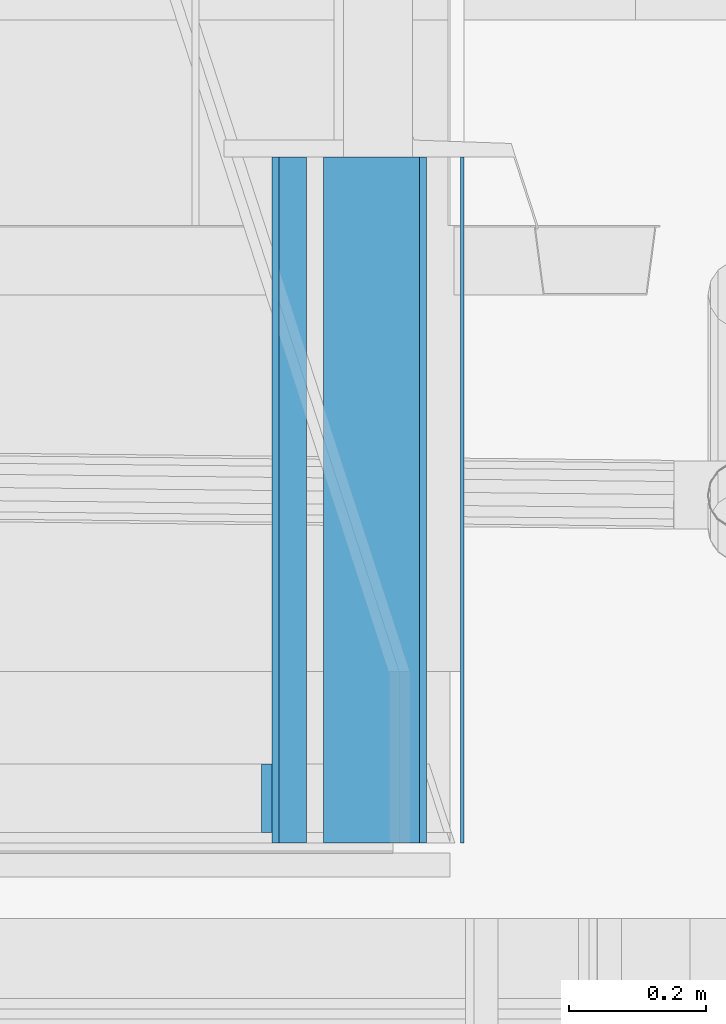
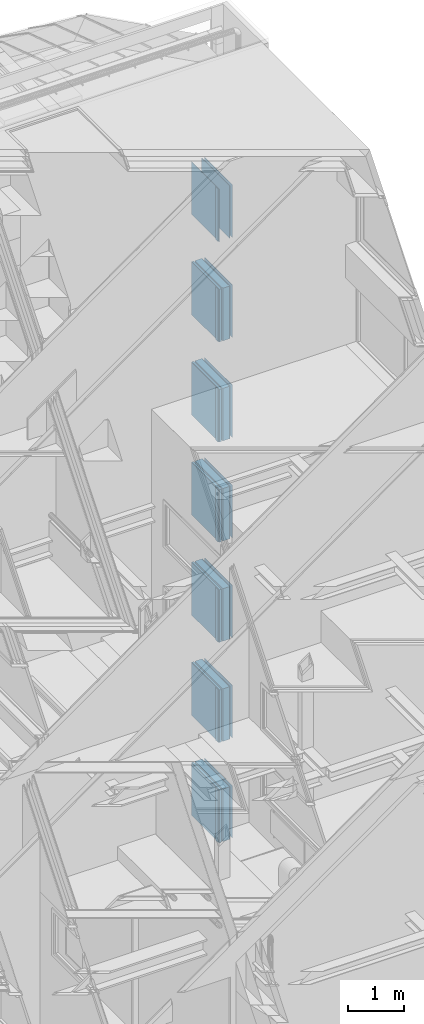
# One storey, part 165 of 583: 40 building element parts, 7 elements without a shape of their own.
"""IFC2X3 building model written with IfcOpenShell, lengths in metres."""

from ifc_helpers import new_model, entity, si_unit, converted_unit, derived_unit, money_unit, direction, frame, frame_2d, origin_with_axes, place, context, subcontext, project, spatial, rectangle, extrude, material, type_object, element, aggregate, save


model = new_model("IFC2X3")

# Units and contexts
model_context = context("Model", 3, precision=1e-05, world=origin_with_axes(), true_north=direction((0.0, 1.0)))
body_context = subcontext(model_context, "Body", "Model", "MODEL_VIEW", scale=1.0)
ifc_project = project(units=[si_unit("LENGTHUNIT", "METRE"), si_unit("AREAUNIT", "SQUARE_METRE"), si_unit("VOLUMEUNIT", "CUBIC_METRE"), si_unit("ABSORBEDDOSEUNIT", "GRAY"), si_unit("AMOUNTOFSUBSTANCEUNIT", "MOLE"), si_unit("DOSEEQUIVALENTUNIT", "SIEVERT"), si_unit("ELECTRICCAPACITANCEUNIT", "FARAD"), si_unit("ELECTRICCHARGEUNIT", "COULOMB"), si_unit("ELECTRICCONDUCTANCEUNIT", "SIEMENS"), si_unit("ELECTRICCURRENTUNIT", "AMPERE"), si_unit("ELECTRICRESISTANCEUNIT", "OHM"), si_unit("ELECTRICVOLTAGEUNIT", "VOLT"), si_unit("ENERGYUNIT", "JOULE"), si_unit("FORCEUNIT", "NEWTON"), si_unit("FREQUENCYUNIT", "HERTZ"), si_unit("ILLUMINANCEUNIT", "LUX"), si_unit("INDUCTANCEUNIT", "HENRY"), si_unit("LUMINOUSFLUXUNIT", "LUMEN"), si_unit("LUMINOUSINTENSITYUNIT", "CANDELA"), si_unit("MAGNETICFLUXDENSITYUNIT", "TESLA"), si_unit("MAGNETICFLUXUNIT", "WEBER"), si_unit("MASSUNIT", "GRAM"), converted_unit("PLANEANGLEUNIT", "degree", entity("IfcReal", 0.0174532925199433), si_unit("PLANEANGLEUNIT", "RADIAN"), dimensions=[0, 0, 0, 0, 0, 0, 0]), si_unit("POWERUNIT", "WATT"), si_unit("PRESSUREUNIT", "PASCAL"), si_unit("RADIOACTIVITYUNIT", "BECQUEREL"), si_unit("SOLIDANGLEUNIT", "STERADIAN"), si_unit("THERMODYNAMICTEMPERATUREUNIT", "KELVIN"), si_unit("TIMEUNIT", "SECOND"), derived_unit("ACCELERATIONUNIT", [(si_unit("LENGTHUNIT", "METRE"), 1), (si_unit("TIMEUNIT", "SECOND"), -2)]), derived_unit("ANGULARVELOCITYUNIT", [(converted_unit("PLANEANGLEUNIT", "degree", entity("IfcReal", 0.0174532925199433), si_unit("PLANEANGLEUNIT", "RADIAN"), dimensions=[0, 0, 0, 0, 0, 0, 0]), 1), (si_unit("TIMEUNIT", "SECOND"), -1)]), derived_unit("CURVATUREUNIT", [(converted_unit("PLANEANGLEUNIT", "degree", entity("IfcReal", 0.0174532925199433), si_unit("PLANEANGLEUNIT", "RADIAN"), dimensions=[0, 0, 0, 0, 0, 0, 0]), 1), (si_unit("LENGTHUNIT", "METRE"), -1)]), derived_unit("DYNAMICVISCOSITYUNIT", [(si_unit("PRESSUREUNIT", "PASCAL"), 1), (si_unit("TIMEUNIT", "SECOND"), 1)]), derived_unit("HEATFLUXDENSITYUNIT", [(si_unit("POWERUNIT", "WATT"), 1), (si_unit("LENGTHUNIT", "METRE"), -2)]), derived_unit("HEATINGVALUEUNIT", [(si_unit("ENERGYUNIT", "JOULE"), 1), (si_unit("MASSUNIT", "GRAM"), -1)]), derived_unit("INTEGERCOUNTRATEUNIT", [(si_unit("TIMEUNIT", "SECOND"), -1)]), derived_unit("IONCONCENTRATIONUNIT", [(si_unit("MASSUNIT", "GRAM"), 1), (si_unit("VOLUMEUNIT", "CUBIC_METRE"), -1)]), derived_unit("ISOTHERMALMOISTURECAPACITYUNIT", [(si_unit("VOLUMEUNIT", "CUBIC_METRE"), 1), (si_unit("MASSUNIT", "GRAM"), -1)]), derived_unit("KINEMATICVISCOSITYUNIT", [(si_unit("AREAUNIT", "SQUARE_METRE"), 1), (si_unit("TIMEUNIT", "SECOND"), -1)]), derived_unit("LINEARFORCEUNIT", [(si_unit("FORCEUNIT", "NEWTON"), 1), (si_unit("LENGTHUNIT", "METRE"), -1)]), derived_unit("LINEARMOMENTUNIT", [(si_unit("FORCEUNIT", "NEWTON"), 1), (si_unit("LENGTHUNIT", "METRE"), -1)]), derived_unit("LINEARSTIFFNESSUNIT", [(si_unit("FORCEUNIT", "NEWTON"), 1), (si_unit("LENGTHUNIT", "METRE"), -1)]), derived_unit("LINEARVELOCITYUNIT", [(si_unit("LENGTHUNIT", "METRE"), 1), (si_unit("TIMEUNIT", "SECOND"), -1)]), derived_unit("LUMINOUSINTENSITYDISTRIBUTIONUNIT", [(si_unit("LUMINOUSINTENSITYUNIT", "CANDELA"), 1), (si_unit("LUMINOUSFLUXUNIT", "LUMEN"), -1)]), derived_unit("MASSDENSITYUNIT", [(si_unit("MASSUNIT", "GRAM"), 1), (si_unit("VOLUMEUNIT", "CUBIC_METRE"), -1)]), derived_unit("MASSFLOWRATEUNIT", [(si_unit("MASSUNIT", "GRAM"), 1), (si_unit("TIMEUNIT", "SECOND"), -1)]), derived_unit("MASSPERLENGTHUNIT", [(si_unit("MASSUNIT", "GRAM"), 1), (si_unit("LENGTHUNIT", "METRE"), -1)]), derived_unit("MODULUSOFELASTICITYUNIT", [(si_unit("FORCEUNIT", "NEWTON"), 1), (si_unit("AREAUNIT", "SQUARE_METRE"), -1)]), derived_unit("MODULUSOFLINEARSUBGRADEREACTIONUNIT", [(si_unit("FORCEUNIT", "NEWTON"), 1), (si_unit("LENGTHUNIT", "METRE"), -2)]), derived_unit("MODULUSOFROTATIONALSUBGRADEREACTIONUNIT", [(si_unit("FORCEUNIT", "NEWTON"), 1), (si_unit("LENGTHUNIT", "METRE"), 1)]), derived_unit("MODULUSOFSUBGRADEREACTIONUNIT", [(si_unit("FORCEUNIT", "NEWTON"), 1), (si_unit("VOLUMEUNIT", "CUBIC_METRE"), -1)]), derived_unit("MOISTUREDIFFUSIVITYUNIT", [(si_unit("VOLUMEUNIT", "CUBIC_METRE"), 1), (si_unit("TIMEUNIT", "SECOND"), -1)]), derived_unit("MOLECULARWEIGHTUNIT", [(si_unit("MASSUNIT", "GRAM"), 1), (si_unit("AMOUNTOFSUBSTANCEUNIT", "MOLE"), -1)]), derived_unit("PLANARFORCEUNIT", [(si_unit("FORCEUNIT", "NEWTON"), 1), (si_unit("LENGTHUNIT", "METRE"), -2)]), derived_unit("ROTATIONALFREQUENCYUNIT", [(si_unit("TIMEUNIT", "SECOND"), -1)]), derived_unit("ROTATIONALMASSUNIT", [(si_unit("MASSUNIT", "GRAM"), 1), (si_unit("LENGTHUNIT", "METRE"), 2)]), derived_unit("ROTATIONALSTIFFNESSUNIT", [(si_unit("FORCEUNIT", "NEWTON"), 1), (si_unit("LENGTHUNIT", "METRE"), 1), (converted_unit("PLANEANGLEUNIT", "degree", entity("IfcReal", 0.0174532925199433), si_unit("PLANEANGLEUNIT", "RADIAN"), dimensions=[0, 0, 0, 0, 0, 0, 0]), -1)]), derived_unit("SECTIONAREAINTEGRALUNIT", [(si_unit("LENGTHUNIT", "METRE"), 5)]), derived_unit("SECTIONMODULUSUNIT", [(si_unit("LENGTHUNIT", "METRE"), 3)]), derived_unit("SHEARMODULUSUNIT", [(si_unit("FORCEUNIT", "NEWTON"), 1), (si_unit("AREAUNIT", "SQUARE_METRE"), -1)]), derived_unit("SOUNDPOWERUNIT", [(si_unit("ENERGYUNIT", "JOULE"), 1), (si_unit("TIMEUNIT", "SECOND"), -1)]), derived_unit("SPECIFICHEATCAPACITYUNIT", [(si_unit("FORCEUNIT", "NEWTON"), 1), (si_unit("MASSUNIT", "GRAM"), -1), (si_unit("THERMODYNAMICTEMPERATUREUNIT", "KELVIN"), -1)]), derived_unit("TEMPERATUREGRADIENTUNIT", [(si_unit("THERMODYNAMICTEMPERATUREUNIT", "KELVIN"), 1), (si_unit("LENGTHUNIT", "METRE"), -1)]), derived_unit("THERMALADMITTANCEUNIT", [(si_unit("POWERUNIT", "WATT"), 1), (si_unit("AREAUNIT", "SQUARE_METRE"), -1), (si_unit("THERMODYNAMICTEMPERATUREUNIT", "KELVIN"), -1)]), derived_unit("THERMALCONDUCTANCEUNIT", [(si_unit("POWERUNIT", "WATT"), 1), (si_unit("LENGTHUNIT", "METRE"), -1), (si_unit("THERMODYNAMICTEMPERATUREUNIT", "KELVIN"), -1)]), derived_unit("THERMALEXPANSIONCOEFFICIENTUNIT", [(si_unit("THERMODYNAMICTEMPERATUREUNIT", "KELVIN"), -1)]), derived_unit("THERMALRESISTANCEUNIT", [(si_unit("AREAUNIT", "SQUARE_METRE"), 1), (si_unit("POWERUNIT", "WATT"), -1)]), derived_unit("THERMALTRANSMITTANCEUNIT", [(si_unit("POWERUNIT", "WATT"), 1), (si_unit("AREAUNIT", "SQUARE_METRE"), -1), (si_unit("THERMODYNAMICTEMPERATUREUNIT", "KELVIN"), -1)]), derived_unit("TORQUEUNIT", [(si_unit("FORCEUNIT", "NEWTON"), 1), (si_unit("LENGTHUNIT", "METRE"), 1)]), derived_unit("VAPORPERMEABILITYUNIT", [(si_unit("MASSUNIT", "GRAM"), 1), (si_unit("TIMEUNIT", "SECOND"), -1)]), derived_unit("VOLUMETRICFLOWRATEUNIT", [(si_unit("VOLUMEUNIT", "CUBIC_METRE"), 1), (si_unit("TIMEUNIT", "SECOND"), -1)]), derived_unit("WARPINGCONSTANTUNIT", [(si_unit("LENGTHUNIT", "METRE"), 6)]), derived_unit("WARPINGMOMENTUNIT", [(si_unit("FORCEUNIT", "NEWTON"), 1), (si_unit("LENGTHUNIT", "METRE"), 2)]), money_unit("GBP")], contexts=[model_context])

# Site, building, storey
site_placement = place(None, origin_with_axes())
site = spatial("IfcSite", under=ifc_project, at=site_placement, Name="Site", CompositionType="ELEMENT")
building_placement = place(site_placement, origin_with_axes())
building = spatial("IfcBuilding", under=site, at=building_placement, Name="Building01", CompositionType="ELEMENT")
storey_placement = place(building_placement, frame((0.0, 0.0, 20.78), z_axis=(0.0, 0.0, 1.0), x_axis=(1.0, 0.0, 0.0)))
storey = spatial("IfcBuildingStorey", under=building, at=storey_placement, Name="RL", CompositionType="ELEMENT", Elevation=20.78)

# Wall, building element parts
wall_type = type_object("IfcWallType", Name="SHE_A-Walls_Type06e_ExternalWallPenthouse_280mm", PredefinedType="NOTDEFINED")
wall_1_placement = place(storey_placement, frame((14.335061, 14.98, 2.000024), z_axis=(0.0, 1.0, 0.0), x_axis=(0.0, 0.0, 1.0)))
wall_1 = element("IfcWall", 1, at=wall_1_placement, inside=storey, type_object=wall_type, Name="6E", ObjectType="SHE_A-Walls_Type06e_ExternalWallPenthouse_280mm")
ifc_material_1 = material(Name="A_BSUK_Walls_Timber")
placement_1 = place(wall_1_placement, origin_with_axes())
building_element_part_1 = element("IfcBuildingElementPart", 2, at=placement_1, material=ifc_material_1, Name="3", context=body_context, shape_type="SweptSolid", body=[
    extrude(rectangle(XDim=1.149951, YDim=0.015, at=frame_2d((0.574976, -0.2225), x_axis=(-1.0, 0.0))), frame((0.0, 0.0, 0.015), z_axis=(0.0, 0.0, 1.0), x_axis=(1.0, 0.0, 0.0)), (0.0, 0.0, 1.0), 0.1),
])
ifc_material_2 = material(Name="A_BSUK_WallInternal_Finishes_Plasterboard")
building_element_part_2 = element("IfcBuildingElementPart", 3, at=placement_1, material=ifc_material_2, Name="4", context=body_context, shape_type="SweptSolid", body=[
    extrude(rectangle(XDim=1.149951, YDim=0.01, at=frame_2d((0.574976, -0.21), x_axis=(-1.0, 0.0))), origin_with_axes(), (0.0, 0.0, 1.0), 1.0),
])
building_element_part_3 = element("IfcBuildingElementPart", 4, at=placement_1, material=ifc_material_1, Name="5", context=body_context, shape_type="SweptSolid", body=[
    extrude(rectangle(XDim=1.149951, YDim=0.01, at=frame_2d((0.574976, 0.005), x_axis=(-1.0, 0.0))), origin_with_axes(), (0.0, 0.0, 1.0), 1.0),
])
ifc_material_3 = material(Name="A_BSUK_WallInternal_Finishes_Metal")
building_element_part_4 = element("IfcBuildingElementPart", 5, at=placement_1, material=ifc_material_3, Name="6", context=body_context, shape_type="SweptSolid", body=[
    extrude(rectangle(XDim=1.149951, YDim=0.005, at=frame_2d((0.574976, 0.0625), x_axis=(-1.0, 0.0))), origin_with_axes(), (0.0, 0.0, 1.0), 1.0),
])
aggregate(wall_1, [building_element_part_1, building_element_part_2, building_element_part_3, building_element_part_4])

wall_2_placement = place(storey_placement, frame((14.335061, 14.98, -0.189976), z_axis=(0.0, 1.0, 0.0), x_axis=(0.0, 0.0, 1.0)))
wall_2 = element("IfcWall", 6, at=wall_2_placement, inside=storey, type_object=wall_type, Name="6E", ObjectType="SHE_A-Walls_Type06e_ExternalWallPenthouse_280mm")
ifc_material_4 = material(Name="A_BSUK_Insulation")
placement_2 = place(wall_2_placement, origin_with_axes())
building_element_part_5 = element("IfcBuildingElementPart", 7, at=placement_2, material=ifc_material_4, Name="1", context=body_context, shape_type="SweptSolid", body=[
    extrude(rectangle(XDim=1.149951, YDim=0.14, at=frame_2d((0.574976, -0.07), x_axis=(-1.0, 0.0))), origin_with_axes(), (0.0, 0.0, 1.0), 1.0),
])
building_element_part_6 = element("IfcBuildingElementPart", 8, at=placement_2, material=ifc_material_4, Name="2", context=body_context, shape_type="SweptSolid", body=[
    extrude(rectangle(XDim=1.149951, YDim=0.04, at=frame_2d((0.574976, -0.185), x_axis=(-1.0, 0.0))), origin_with_axes(), (0.0, 0.0, 1.0), 1.0),
])
building_element_part_7 = element("IfcBuildingElementPart", 9, at=placement_2, material=ifc_material_1, Name="3", context=body_context, shape_type="SweptSolid", body=[
    extrude(rectangle(XDim=1.149951, YDim=0.015, at=frame_2d((0.574976, -0.2225), x_axis=(-1.0, 0.0))), frame((0.0, 0.0, 0.015), z_axis=(0.0, 0.0, 1.0), x_axis=(1.0, 0.0, 0.0)), (0.0, 0.0, 1.0), 0.1),
])
building_element_part_8 = element("IfcBuildingElementPart", 10, at=placement_2, material=ifc_material_2, Name="4", context=body_context, shape_type="SweptSolid", body=[
    extrude(rectangle(XDim=1.149951, YDim=0.01, at=frame_2d((0.574976, -0.21), x_axis=(-1.0, 0.0))), origin_with_axes(), (0.0, 0.0, 1.0), 1.0),
])
building_element_part_9 = element("IfcBuildingElementPart", 11, at=placement_2, material=ifc_material_1, Name="5", context=body_context, shape_type="SweptSolid", body=[
    extrude(rectangle(XDim=1.149951, YDim=0.01, at=frame_2d((0.574976, 0.005), x_axis=(-1.0, 0.0))), origin_with_axes(), (0.0, 0.0, 1.0), 1.0),
])
building_element_part_10 = element("IfcBuildingElementPart", 12, at=placement_2, material=ifc_material_3, Name="6", context=body_context, shape_type="SweptSolid", body=[
    extrude(rectangle(XDim=1.149951, YDim=0.005, at=frame_2d((0.574976, 0.0625), x_axis=(-1.0, 0.0))), origin_with_axes(), (0.0, 0.0, 1.0), 1.0),
])
aggregate(wall_2, [building_element_part_5, building_element_part_6, building_element_part_7, building_element_part_8, building_element_part_9, building_element_part_10])

wall_3_placement = place(storey_placement, frame((14.335061, 14.98, -2.379976), z_axis=(0.0, 1.0, 0.0), x_axis=(0.0, 0.0, 1.0)))
wall_3 = element("IfcWall", 13, at=wall_3_placement, inside=storey, type_object=wall_type, Name="6E", ObjectType="SHE_A-Walls_Type06e_ExternalWallPenthouse_280mm")
placement_3 = place(wall_3_placement, origin_with_axes())
building_element_part_11 = element("IfcBuildingElementPart", 14, at=placement_3, material=ifc_material_4, Name="1", context=body_context, shape_type="SweptSolid", body=[
    extrude(rectangle(XDim=1.149951, YDim=0.14, at=frame_2d((0.574976, -0.07), x_axis=(-1.0, 0.0))), origin_with_axes(), (0.0, 0.0, 1.0), 1.0),
])
building_element_part_12 = element("IfcBuildingElementPart", 15, at=placement_3, material=ifc_material_4, Name="2", context=body_context, shape_type="SweptSolid", body=[
    extrude(rectangle(XDim=1.149951, YDim=0.04, at=frame_2d((0.574976, -0.185), x_axis=(-1.0, 0.0))), origin_with_axes(), (0.0, 0.0, 1.0), 1.0),
])
building_element_part_13 = element("IfcBuildingElementPart", 16, at=placement_3, material=ifc_material_1, Name="3", context=body_context, shape_type="SweptSolid", body=[
    extrude(rectangle(XDim=1.149951, YDim=0.015, at=frame_2d((0.574976, -0.2225), x_axis=(-1.0, 0.0))), frame((0.0, 0.0, 0.015), z_axis=(0.0, 0.0, 1.0), x_axis=(1.0, 0.0, 0.0)), (0.0, 0.0, 1.0), 0.1),
])
building_element_part_14 = element("IfcBuildingElementPart", 17, at=placement_3, material=ifc_material_2, Name="4", context=body_context, shape_type="SweptSolid", body=[
    extrude(rectangle(XDim=1.149951, YDim=0.01, at=frame_2d((0.574976, -0.21), x_axis=(-1.0, 0.0))), origin_with_axes(), (0.0, 0.0, 1.0), 1.0),
])
building_element_part_15 = element("IfcBuildingElementPart", 18, at=placement_3, material=ifc_material_1, Name="5", context=body_context, shape_type="SweptSolid", body=[
    extrude(rectangle(XDim=1.149951, YDim=0.01, at=frame_2d((0.574976, 0.005), x_axis=(-1.0, 0.0))), origin_with_axes(), (0.0, 0.0, 1.0), 1.0),
])
building_element_part_16 = element("IfcBuildingElementPart", 19, at=placement_3, material=ifc_material_3, Name="6", context=body_context, shape_type="SweptSolid", body=[
    extrude(rectangle(XDim=1.149951, YDim=0.005, at=frame_2d((0.574976, 0.0625), x_axis=(-1.0, 0.0))), origin_with_axes(), (0.0, 0.0, 1.0), 1.0),
])
aggregate(wall_3, [building_element_part_11, building_element_part_12, building_element_part_13, building_element_part_14, building_element_part_15, building_element_part_16])

wall_4_placement = place(storey_placement, frame((14.335061, 14.98, -4.569976), z_axis=(0.0, 1.0, 0.0), x_axis=(0.0, 0.0, 1.0)))
wall_4 = element("IfcWall", 20, at=wall_4_placement, inside=storey, type_object=wall_type, Name="6E", ObjectType="SHE_A-Walls_Type06e_ExternalWallPenthouse_280mm")
placement_4 = place(wall_4_placement, origin_with_axes())
building_element_part_17 = element("IfcBuildingElementPart", 21, at=placement_4, material=ifc_material_4, Name="1", context=body_context, shape_type="SweptSolid", body=[
    extrude(rectangle(XDim=1.149951, YDim=0.14, at=frame_2d((0.574976, -0.07), x_axis=(-1.0, 0.0))), origin_with_axes(), (0.0, 0.0, 1.0), 1.0),
])
building_element_part_18 = element("IfcBuildingElementPart", 22, at=placement_4, material=ifc_material_4, Name="2", context=body_context, shape_type="SweptSolid", body=[
    extrude(rectangle(XDim=1.149951, YDim=0.04, at=frame_2d((0.574976, -0.185), x_axis=(-1.0, 0.0))), origin_with_axes(), (0.0, 0.0, 1.0), 1.0),
])
building_element_part_19 = element("IfcBuildingElementPart", 23, at=placement_4, material=ifc_material_1, Name="3", context=body_context, shape_type="SweptSolid", body=[
    extrude(rectangle(XDim=1.149951, YDim=0.015, at=frame_2d((0.574976, -0.2225), x_axis=(-1.0, 0.0))), frame((0.0, 0.0, 0.015), z_axis=(0.0, 0.0, 1.0), x_axis=(1.0, 0.0, 0.0)), (0.0, 0.0, 1.0), 0.1),
])
building_element_part_20 = element("IfcBuildingElementPart", 24, at=placement_4, material=ifc_material_2, Name="4", context=body_context, shape_type="SweptSolid", body=[
    extrude(rectangle(XDim=1.149951, YDim=0.01, at=frame_2d((0.574976, -0.21), x_axis=(-1.0, 0.0))), origin_with_axes(), (0.0, 0.0, 1.0), 1.0),
])
building_element_part_21 = element("IfcBuildingElementPart", 25, at=placement_4, material=ifc_material_1, Name="5", context=body_context, shape_type="SweptSolid", body=[
    extrude(rectangle(XDim=1.149951, YDim=0.01, at=frame_2d((0.574976, 0.005), x_axis=(-1.0, 0.0))), origin_with_axes(), (0.0, 0.0, 1.0), 1.0),
])
building_element_part_22 = element("IfcBuildingElementPart", 26, at=placement_4, material=ifc_material_3, Name="6", context=body_context, shape_type="SweptSolid", body=[
    extrude(rectangle(XDim=1.149951, YDim=0.005, at=frame_2d((0.574976, 0.0625), x_axis=(-1.0, 0.0))), origin_with_axes(), (0.0, 0.0, 1.0), 1.0),
])
aggregate(wall_4, [building_element_part_17, building_element_part_18, building_element_part_19, building_element_part_20, building_element_part_21, building_element_part_22])

wall_5_placement = place(storey_placement, frame((14.335061, 14.98, -6.759976), z_axis=(0.0, 1.0, 0.0), x_axis=(0.0, 0.0, 1.0)))
wall_5 = element("IfcWall", 27, at=wall_5_placement, inside=storey, type_object=wall_type, Name="6E", ObjectType="SHE_A-Walls_Type06e_ExternalWallPenthouse_280mm")
placement_5 = place(wall_5_placement, origin_with_axes())
building_element_part_23 = element("IfcBuildingElementPart", 28, at=placement_5, material=ifc_material_4, Name="1", context=body_context, shape_type="SweptSolid", body=[
    extrude(rectangle(XDim=1.149951, YDim=0.14, at=frame_2d((0.574976, -0.07), x_axis=(-1.0, 0.0))), origin_with_axes(), (0.0, 0.0, 1.0), 1.0),
])
building_element_part_24 = element("IfcBuildingElementPart", 29, at=placement_5, material=ifc_material_4, Name="2", context=body_context, shape_type="SweptSolid", body=[
    extrude(rectangle(XDim=1.149951, YDim=0.04, at=frame_2d((0.574976, -0.185), x_axis=(-1.0, 0.0))), origin_with_axes(), (0.0, 0.0, 1.0), 1.0),
])
building_element_part_25 = element("IfcBuildingElementPart", 30, at=placement_5, material=ifc_material_1, Name="3", context=body_context, shape_type="SweptSolid", body=[
    extrude(rectangle(XDim=1.149951, YDim=0.015, at=frame_2d((0.574976, -0.2225), x_axis=(-1.0, 0.0))), frame((0.0, 0.0, 0.015), z_axis=(0.0, 0.0, 1.0), x_axis=(1.0, 0.0, 0.0)), (0.0, 0.0, 1.0), 0.1),
])
building_element_part_26 = element("IfcBuildingElementPart", 31, at=placement_5, material=ifc_material_2, Name="4", context=body_context, shape_type="SweptSolid", body=[
    extrude(rectangle(XDim=1.149951, YDim=0.01, at=frame_2d((0.574976, -0.21), x_axis=(-1.0, 0.0))), origin_with_axes(), (0.0, 0.0, 1.0), 1.0),
])
building_element_part_27 = element("IfcBuildingElementPart", 32, at=placement_5, material=ifc_material_1, Name="5", context=body_context, shape_type="SweptSolid", body=[
    extrude(rectangle(XDim=1.149951, YDim=0.01, at=frame_2d((0.574976, 0.005), x_axis=(-1.0, 0.0))), origin_with_axes(), (0.0, 0.0, 1.0), 1.0),
])
building_element_part_28 = element("IfcBuildingElementPart", 33, at=placement_5, material=ifc_material_3, Name="6", context=body_context, shape_type="SweptSolid", body=[
    extrude(rectangle(XDim=1.149951, YDim=0.005, at=frame_2d((0.574976, 0.0625), x_axis=(-1.0, 0.0))), origin_with_axes(), (0.0, 0.0, 1.0), 1.0),
])
aggregate(wall_5, [building_element_part_23, building_element_part_24, building_element_part_25, building_element_part_26, building_element_part_27, building_element_part_28])

wall_6_placement = place(storey_placement, frame((14.335061, 14.98, -8.949976), z_axis=(0.0, 1.0, 0.0), x_axis=(0.0, 0.0, 1.0)))
wall_6 = element("IfcWall", 34, at=wall_6_placement, inside=storey, type_object=wall_type, Name="6E", ObjectType="SHE_A-Walls_Type06e_ExternalWallPenthouse_280mm")
placement_6 = place(wall_6_placement, origin_with_axes())
building_element_part_29 = element("IfcBuildingElementPart", 35, at=placement_6, material=ifc_material_4, Name="1", context=body_context, shape_type="SweptSolid", body=[
    extrude(rectangle(XDim=1.149951, YDim=0.14, at=frame_2d((0.574976, -0.07), x_axis=(-1.0, 0.0))), origin_with_axes(), (0.0, 0.0, 1.0), 1.0),
])
building_element_part_30 = element("IfcBuildingElementPart", 36, at=placement_6, material=ifc_material_4, Name="2", context=body_context, shape_type="SweptSolid", body=[
    extrude(rectangle(XDim=1.149951, YDim=0.04, at=frame_2d((0.574976, -0.185), x_axis=(-1.0, 0.0))), origin_with_axes(), (0.0, 0.0, 1.0), 1.0),
])
building_element_part_31 = element("IfcBuildingElementPart", 37, at=placement_6, material=ifc_material_1, Name="3", context=body_context, shape_type="SweptSolid", body=[
    extrude(rectangle(XDim=1.149951, YDim=0.015, at=frame_2d((0.574976, -0.2225), x_axis=(-1.0, 0.0))), frame((0.0, 0.0, 0.015), z_axis=(0.0, 0.0, 1.0), x_axis=(1.0, 0.0, 0.0)), (0.0, 0.0, 1.0), 0.1),
])
building_element_part_32 = element("IfcBuildingElementPart", 38, at=placement_6, material=ifc_material_2, Name="4", context=body_context, shape_type="SweptSolid", body=[
    extrude(rectangle(XDim=1.149951, YDim=0.01, at=frame_2d((0.574976, -0.21), x_axis=(-1.0, 0.0))), origin_with_axes(), (0.0, 0.0, 1.0), 1.0),
])
building_element_part_33 = element("IfcBuildingElementPart", 39, at=placement_6, material=ifc_material_1, Name="5", context=body_context, shape_type="SweptSolid", body=[
    extrude(rectangle(XDim=1.149951, YDim=0.01, at=frame_2d((0.574976, 0.005), x_axis=(-1.0, 0.0))), origin_with_axes(), (0.0, 0.0, 1.0), 1.0),
])
building_element_part_34 = element("IfcBuildingElementPart", 40, at=placement_6, material=ifc_material_3, Name="6", context=body_context, shape_type="SweptSolid", body=[
    extrude(rectangle(XDim=1.149951, YDim=0.005, at=frame_2d((0.574976, 0.0625), x_axis=(-1.0, 0.0))), origin_with_axes(), (0.0, 0.0, 1.0), 1.0),
])
aggregate(wall_6, [building_element_part_29, building_element_part_30, building_element_part_31, building_element_part_32, building_element_part_33, building_element_part_34])

wall_7_placement = place(storey_placement, frame((14.335061, 14.98, -11.139976), z_axis=(0.0, 1.0, 0.0), x_axis=(0.0, 0.0, 1.0)))
wall_7 = element("IfcWall", 41, at=wall_7_placement, inside=storey, type_object=wall_type, Name="6E", ObjectType="SHE_A-Walls_Type06e_ExternalWallPenthouse_280mm")
placement_7 = place(wall_7_placement, origin_with_axes())
building_element_part_35 = element("IfcBuildingElementPart", 42, at=placement_7, material=ifc_material_4, Name="1", context=body_context, shape_type="SweptSolid", body=[
    extrude(rectangle(XDim=1.149951, YDim=0.14, at=frame_2d((0.574976, -0.07), x_axis=(-1.0, 0.0))), origin_with_axes(), (0.0, 0.0, 1.0), 1.0),
])
building_element_part_36 = element("IfcBuildingElementPart", 43, at=placement_7, material=ifc_material_4, Name="2", context=body_context, shape_type="SweptSolid", body=[
    extrude(rectangle(XDim=1.149951, YDim=0.04, at=frame_2d((0.574976, -0.185), x_axis=(-1.0, 0.0))), origin_with_axes(), (0.0, 0.0, 1.0), 1.0),
])
building_element_part_37 = element("IfcBuildingElementPart", 44, at=placement_7, material=ifc_material_1, Name="3", context=body_context, shape_type="SweptSolid", body=[
    extrude(rectangle(XDim=1.149951, YDim=0.015, at=frame_2d((0.574976, -0.2225), x_axis=(-1.0, 0.0))), frame((0.0, 0.0, 0.015), z_axis=(0.0, 0.0, 1.0), x_axis=(1.0, 0.0, 0.0)), (0.0, 0.0, 1.0), 0.1),
])
building_element_part_38 = element("IfcBuildingElementPart", 45, at=placement_7, material=ifc_material_2, Name="4", context=body_context, shape_type="SweptSolid", body=[
    extrude(rectangle(XDim=1.149951, YDim=0.01, at=frame_2d((0.574976, -0.21), x_axis=(-1.0, 0.0))), origin_with_axes(), (0.0, 0.0, 1.0), 1.0),
])
building_element_part_39 = element("IfcBuildingElementPart", 46, at=placement_7, material=ifc_material_1, Name="5", context=body_context, shape_type="SweptSolid", body=[
    extrude(rectangle(XDim=1.149951, YDim=0.01, at=frame_2d((0.574976, 0.005), x_axis=(-1.0, 0.0))), origin_with_axes(), (0.0, 0.0, 1.0), 1.0),
])
building_element_part_40 = element("IfcBuildingElementPart", 47, at=placement_7, material=ifc_material_3, Name="6", context=body_context, shape_type="SweptSolid", body=[
    extrude(rectangle(XDim=1.149951, YDim=0.005, at=frame_2d((0.574976, 0.0625), x_axis=(-1.0, 0.0))), origin_with_axes(), (0.0, 0.0, 1.0), 1.0),
])
aggregate(wall_7, [building_element_part_35, building_element_part_36, building_element_part_37, building_element_part_38, building_element_part_39, building_element_part_40])

save(model, "model.ifc")
